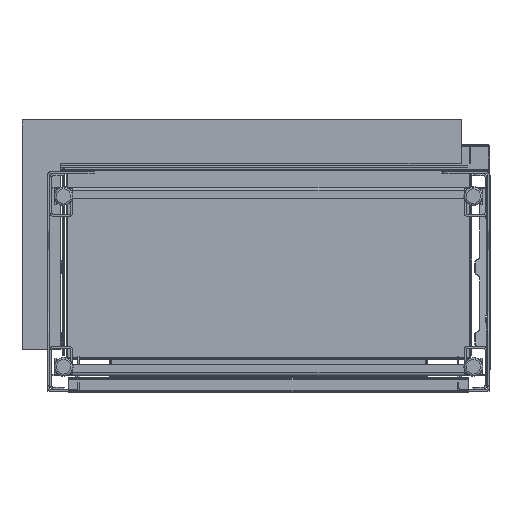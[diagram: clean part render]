
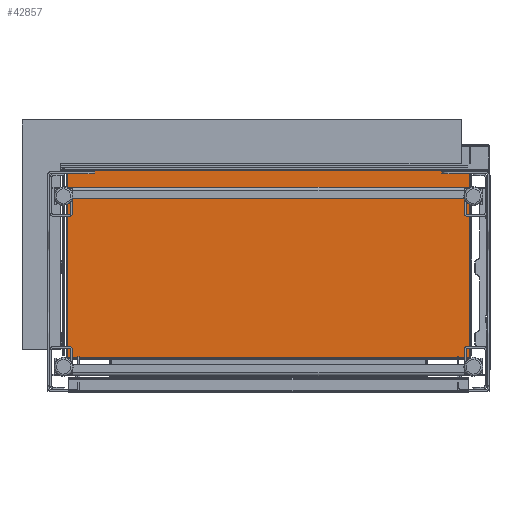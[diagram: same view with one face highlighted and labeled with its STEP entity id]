
A CAD part, front view. The second image highlights one B-rep face of the part: STEP entity #42857.
In plain terms, the highlighted planar face has unit normal (0, -1, 0).
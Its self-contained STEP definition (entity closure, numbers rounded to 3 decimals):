
#916 = AXIS2_PLACEMENT_3D ( 'NONE', #24258, #91858, #47424 ) ;
#1542 = VERTEX_POINT ( 'NONE', #40865 ) ;
#3393 = ORIENTED_EDGE ( 'NONE', *, *, #69203, .T. ) ;
#8886 = VECTOR ( 'NONE', #95540, 1000. ) ;
#8996 = ORIENTED_EDGE ( 'NONE', *, *, #95418, .T. ) ;
#9449 = FACE_OUTER_BOUND ( 'NONE', #13431, .T. ) ;
#10054 = CARTESIAN_POINT ( 'NONE',  ( 424.2, -87.8, -1.2 ) ) ;
#13431 = EDGE_LOOP ( 'NONE', ( #25762, #8996, #70705, #3393 ) ) ;
#19630 = VECTOR ( 'NONE', #35567, 1000. ) ;
#20518 = LINE ( 'NONE', #21014, #8886 ) ;
#21014 = CARTESIAN_POINT ( 'NONE',  ( -424.2, -87.8, 394.293 ) ) ;
#24258 = CARTESIAN_POINT ( 'NONE',  ( 0., -87.8, 196.5 ) ) ;
#25762 = ORIENTED_EDGE ( 'NONE', *, *, #33996, .T. ) ;
#27310 = VECTOR ( 'NONE', #66465, 1000. ) ;
#33761 = VERTEX_POINT ( 'NONE', #95560 ) ;
#33996 = EDGE_CURVE ( 'Defeatured_3651+Defeatured_3655+Defeatured_36528+Defeatured_36519', #56787, #47570, #48096, .T. ) ;
#35567 = DIRECTION ( 'NONE',  ( -1., 0., 0. ) ) ;
#38301 = CARTESIAN_POINT ( 'NONE',  ( 424.2, -87.8, -1.293 ) ) ;
#40037 = PLANE ( 'NONE',  #916 ) ;
#40865 = CARTESIAN_POINT ( 'NONE',  ( 424.2, -87.8, 394.2 ) ) ;
#42857 = ADVANCED_FACE ( 'Defeatured_3651', ( #9449 ), #40037, .T. ) ;
#45929 = VECTOR ( 'NONE', #70320, 1000. ) ;
#47424 = DIRECTION ( 'NONE',  ( 0., 0., -1. ) ) ;
#47570 = VERTEX_POINT ( 'NONE', #10054 ) ;
#48096 = LINE ( 'NONE', #63401, #45929 ) ;
#50854 = CARTESIAN_POINT ( 'NONE',  ( 424.293, -87.8, 394.2 ) ) ;
#51671 = LINE ( 'NONE', #38301, #27310 ) ;
#56787 = VERTEX_POINT ( 'NONE', #83505 ) ;
#63401 = CARTESIAN_POINT ( 'NONE',  ( -424.293, -87.8, -1.2 ) ) ;
#66465 = DIRECTION ( 'NONE',  ( 0., 0., 1. ) ) ;
#69203 = EDGE_CURVE ( 'Defeatured_3651+Defeatured_36528+Defeatured_36532+Defeatured_3655', #33761, #56787, #20518, .T. ) ;
#70320 = DIRECTION ( 'NONE',  ( 1., 0., 0. ) ) ;
#70705 = ORIENTED_EDGE ( 'NONE', *, *, #97173, .T. ) ;
#83505 = CARTESIAN_POINT ( 'NONE',  ( -424.2, -87.8, -1.2 ) ) ;
#91858 = DIRECTION ( 'NONE',  ( 0., -1., 0. ) ) ;
#95418 = EDGE_CURVE ( 'Defeatured_3651+Defeatured_36519+Defeatured_3655+Defeatured_36532', #47570, #1542, #51671, .T. ) ;
#95540 = DIRECTION ( 'NONE',  ( 0., 0., -1. ) ) ;
#95560 = CARTESIAN_POINT ( 'NONE',  ( -424.2, -87.8, 394.2 ) ) ;
#96244 = LINE ( 'NONE', #50854, #19630 ) ;
#97173 = EDGE_CURVE ( 'Defeatured_3651+Defeatured_36532+Defeatured_36519+Defeatured_36528', #1542, #33761, #96244, .T. ) ;
